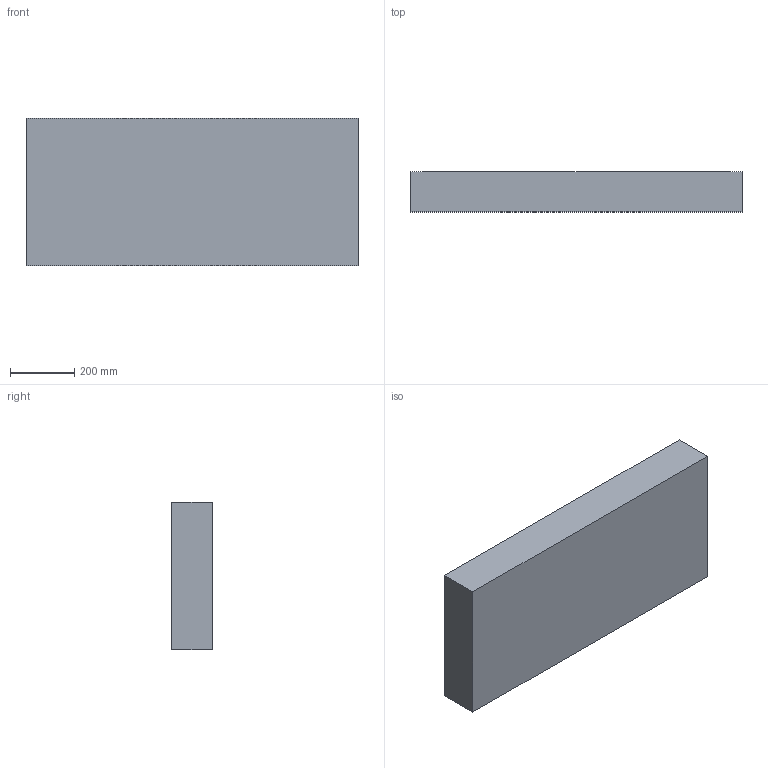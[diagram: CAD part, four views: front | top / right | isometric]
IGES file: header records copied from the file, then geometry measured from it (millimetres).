
Start section: SolidWorks IGES file using analytic representation for surfaces
Global section: file name: C:\Users\chad.chaiyont\My Project\Vault Case\Vault TOR\Vault CAD\PP PID cad\V700\V700 PP tubs\V700 PP BOTTOM TUB 2-5-2024.IGS; native system: SolidWorks 2021; preprocessor: SolidWorks 2021; author: Chad.Chaiyont; date: 240217.234809; units: millimetre
Bounding box: 1030.36 x 124.78 x 457.19 mm (x, y, z)
Surface area: 1681579.7 mm2 (no closed solid volume)
Topology: 0 solids, 0 shells, 757 faces, 4180 edges, 4093 vertices
Faces by surface type: bspline 757
